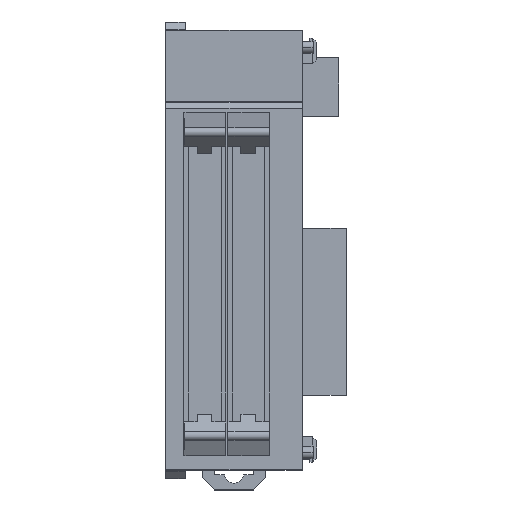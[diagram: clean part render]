
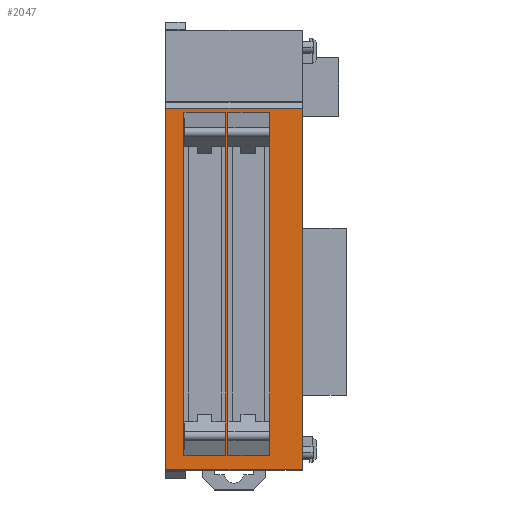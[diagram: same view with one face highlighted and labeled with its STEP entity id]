
A CAD part, top view. The second image highlights one B-rep face of the part: STEP entity #2047.
In plain terms, the highlighted planar face has unit normal (0, 0, 1).
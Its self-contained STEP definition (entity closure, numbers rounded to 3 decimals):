
#1980 = VERTEX_POINT ( 'NONE', #9505 ) ;
#1986 = VERTEX_POINT ( 'NONE', #9489 ) ;
#1988 = EDGE_CURVE ( 'NONE', #1989, #1986, #9502, .T. ) ;
#1989 = VERTEX_POINT ( 'NONE', #9487 ) ;
#1990 = ORIENTED_EDGE ( 'NONE', *, *, #2029, .F. ) ;
#1992 = EDGE_CURVE ( 'NONE', #2008, #2017, #9364, .T. ) ;
#1993 = VERTEX_POINT ( 'NONE', #9506 ) ;
#1995 = EDGE_LOOP ( 'NONE', ( #2011, #2022, #2018, #1990 ) ) ;
#1996 = EDGE_CURVE ( 'NONE', #2017, #1980, #9493, .T. ) ;
#1997 = ORIENTED_EDGE ( 'NONE', *, *, #2033, .T. ) ;
#1998 = EDGE_CURVE ( 'NONE', #2001, #2054, #9356, .T. ) ;
#1999 = ORIENTED_EDGE ( 'NONE', *, *, #1992, .T. ) ;
#2000 = VERTEX_POINT ( 'NONE', #9382 ) ;
#2001 = VERTEX_POINT ( 'NONE', #9381 ) ;
#2008 = VERTEX_POINT ( 'NONE', #9371 ) ;
#2011 = ORIENTED_EDGE ( 'NONE', *, *, #2016, .T. ) ;
#2013 = VERTEX_POINT ( 'NONE', #9539 ) ;
#2014 = ORIENTED_EDGE ( 'NONE', *, *, #2052, .F. ) ;
#2016 = EDGE_CURVE ( 'NONE', #1993, #2000, #9360, .T. ) ;
#2017 = VERTEX_POINT ( 'NONE', #9531 ) ;
#2018 = ORIENTED_EDGE ( 'NONE', *, *, #1988, .F. ) ;
#2019 = ORIENTED_EDGE ( 'NONE', *, *, #1996, .T. ) ;
#2021 = EDGE_CURVE ( 'NONE', #2000, #1986, #9534, .T. ) ;
#2022 = ORIENTED_EDGE ( 'NONE', *, *, #2021, .T. ) ;
#2029 = EDGE_CURVE ( 'NONE', #1993, #1989, #9518, .T. ) ;
#2033 = EDGE_CURVE ( 'NONE', #2013, #2001, #9469, .T. ) ;
#2034 = EDGE_LOOP ( 'NONE', ( #2053, #2102, #1999, #2019 ) ) ;
#2047 = ADVANCED_FACE ( 'NONE', ( #9404, #9476, #9462 ), #9399, .T. ) ;
#2048 = VERTEX_POINT ( 'NONE', #9288 ) ;
#2050 = EDGE_LOOP ( 'NONE', ( #1997, #2051, #2014, #2107 ) ) ;
#2051 = ORIENTED_EDGE ( 'NONE', *, *, #1998, .T. ) ;
#2052 = EDGE_CURVE ( 'NONE', #2048, #2054, #9170, .T. ) ;
#2053 = ORIENTED_EDGE ( 'NONE', *, *, #2106, .T. ) ;
#2054 = VERTEX_POINT ( 'NONE', #9786 ) ;
#2061 = EDGE_CURVE ( 'NONE', #2013, #2048, #9777, .T. ) ;
#2101 = EDGE_CURVE ( 'NONE', #2108, #2008, #9620, .T. ) ;
#2102 = ORIENTED_EDGE ( 'NONE', *, *, #2101, .T. ) ;
#2106 = EDGE_CURVE ( 'NONE', #1980, #2108, #9621, .T. ) ;
#2107 = ORIENTED_EDGE ( 'NONE', *, *, #2061, .F. ) ;
#2108 = VERTEX_POINT ( 'NONE', #9615 ) ;
#9169 = CARTESIAN_POINT ( 'NONE',  ( -10.25, 45., 80. ) ) ;
#9170 = LINE ( 'NONE', #9169, #9268 ) ;
#9175 = DIRECTION ( 'NONE',  ( 0., -1., 0. ) ) ;
#9268 = VECTOR ( 'NONE', #9175, 1000. ) ;
#9288 = CARTESIAN_POINT ( 'NONE',  ( -10.25, 28.15, 80. ) ) ;
#9352 = DIRECTION ( 'NONE',  ( 1., 0., 0. ) ) ;
#9353 = VECTOR ( 'NONE', #9352, 1000. ) ;
#9354 = DIRECTION ( 'NONE',  ( -1., 0., 0. ) ) ;
#9355 = CARTESIAN_POINT ( 'NONE',  ( -14., -42.15, 80. ) ) ;
#9356 = LINE ( 'NONE', #9355, #9383 ) ;
#9359 = CARTESIAN_POINT ( 'NONE',  ( 7.3, 45., 80. ) ) ;
#9360 = LINE ( 'NONE', #9359, #9529 ) ;
#9361 = DIRECTION ( 'NONE',  ( 0., -1., 0. ) ) ;
#9362 = VECTOR ( 'NONE', #9361, 1000. ) ;
#9363 = CARTESIAN_POINT ( 'NONE',  ( -14., -45., 80. ) ) ;
#9364 = LINE ( 'NONE', #9363, #9362 ) ;
#9371 = CARTESIAN_POINT ( 'NONE',  ( -14., 29., 80. ) ) ;
#9381 = CARTESIAN_POINT ( 'NONE',  ( -1.65, -42.15, 80. ) ) ;
#9382 = CARTESIAN_POINT ( 'NONE',  ( 7.3, -42.15, 80. ) ) ;
#9383 = VECTOR ( 'NONE', #9354, 1000. ) ;
#9399 = PLANE ( 'NONE',  #9412 ) ;
#9404 = FACE_BOUND ( 'NONE', #2050, .T. ) ;
#9405 = CARTESIAN_POINT ( 'NONE',  ( -14., 45., 80. ) ) ;
#9407 = DIRECTION ( 'NONE',  ( 0., 0., 1. ) ) ;
#9412 = AXIS2_PLACEMENT_3D ( 'NONE', #9405, #9407, #9413 ) ;
#9413 = DIRECTION ( 'NONE',  ( 1., 0., 0. ) ) ;
#9462 = FACE_BOUND ( 'NONE', #1995, .T. ) ;
#9466 = DIRECTION ( 'NONE',  ( 0., -1., 0. ) ) ;
#9467 = VECTOR ( 'NONE', #9466, 1000. ) ;
#9468 = CARTESIAN_POINT ( 'NONE',  ( -1.65, 45., 80. ) ) ;
#9469 = LINE ( 'NONE', #9468, #9467 ) ;
#9476 = FACE_OUTER_BOUND ( 'NONE', #2034, .T. ) ;
#9482 = DIRECTION ( 'NONE',  ( -1., 0., 0. ) ) ;
#9484 = DIRECTION ( 'NONE',  ( 0., -1., 0. ) ) ;
#9485 = VECTOR ( 'NONE', #9484, 1000. ) ;
#9486 = CARTESIAN_POINT ( 'NONE',  ( -1.3, 45., 80. ) ) ;
#9487 = CARTESIAN_POINT ( 'NONE',  ( -1.3, 28.15, 80. ) ) ;
#9489 = CARTESIAN_POINT ( 'NONE',  ( -1.3, -42.15, 80. ) ) ;
#9492 = CARTESIAN_POINT ( 'NONE',  ( 14., -45., 80. ) ) ;
#9493 = LINE ( 'NONE', #9492, #9353 ) ;
#9502 = LINE ( 'NONE', #9486, #9485 ) ;
#9505 = CARTESIAN_POINT ( 'NONE',  ( 14., -45., 80. ) ) ;
#9506 = CARTESIAN_POINT ( 'NONE',  ( 7.3, 28.15, 80. ) ) ;
#9513 = VECTOR ( 'NONE', #9482, 1000. ) ;
#9518 = LINE ( 'NONE', #9532, #9513 ) ;
#9525 = DIRECTION ( 'NONE',  ( -1., 0., 0. ) ) ;
#9526 = VECTOR ( 'NONE', #9525, 1000. ) ;
#9528 = DIRECTION ( 'NONE',  ( 0., -1., 0. ) ) ;
#9529 = VECTOR ( 'NONE', #9528, 1000. ) ;
#9531 = CARTESIAN_POINT ( 'NONE',  ( -14., -45., 80. ) ) ;
#9532 = CARTESIAN_POINT ( 'NONE',  ( -14., 28.15, 80. ) ) ;
#9533 = CARTESIAN_POINT ( 'NONE',  ( -14., -42.15, 80. ) ) ;
#9534 = LINE ( 'NONE', #9533, #9526 ) ;
#9539 = CARTESIAN_POINT ( 'NONE',  ( -1.65, 28.15, 80. ) ) ;
#9605 = DIRECTION ( 'NONE',  ( 0., 1., 0. ) ) ;
#9606 = VECTOR ( 'NONE', #9605, 1000. ) ;
#9615 = CARTESIAN_POINT ( 'NONE',  ( 14., 29., 80. ) ) ;
#9617 = DIRECTION ( 'NONE',  ( -1., 0., 0. ) ) ;
#9618 = VECTOR ( 'NONE', #9617, 1000. ) ;
#9619 = CARTESIAN_POINT ( 'NONE',  ( -14., 29., 80. ) ) ;
#9620 = LINE ( 'NONE', #9619, #9618 ) ;
#9621 = LINE ( 'NONE', #9737, #9606 ) ;
#9737 = CARTESIAN_POINT ( 'NONE',  ( 14., -45., 80. ) ) ;
#9774 = DIRECTION ( 'NONE',  ( -1., 0., 0. ) ) ;
#9775 = VECTOR ( 'NONE', #9774, 1000. ) ;
#9776 = CARTESIAN_POINT ( 'NONE',  ( -14., 28.15, 80. ) ) ;
#9777 = LINE ( 'NONE', #9776, #9775 ) ;
#9786 = CARTESIAN_POINT ( 'NONE',  ( -10.25, -42.15, 80. ) ) ;
